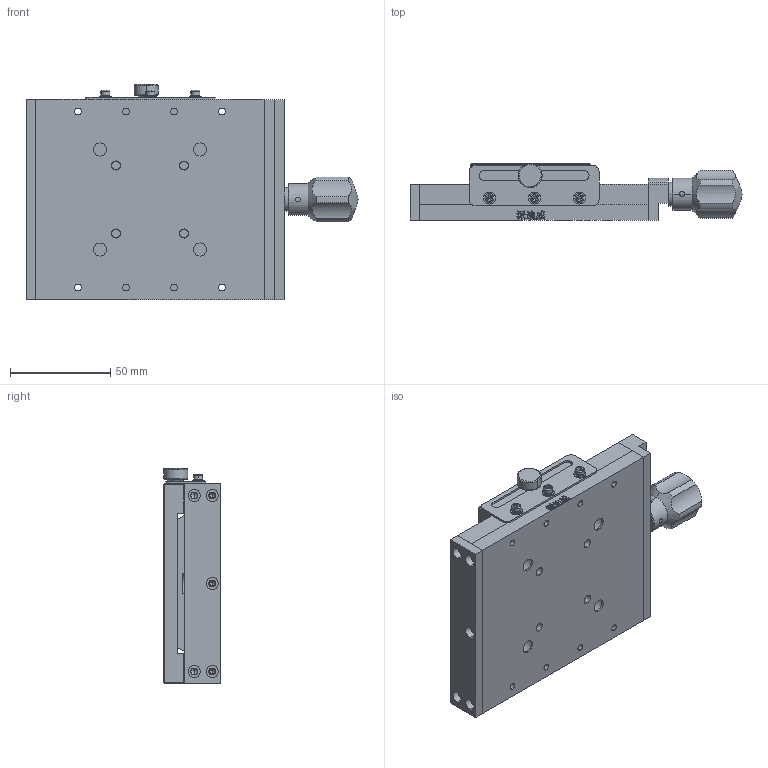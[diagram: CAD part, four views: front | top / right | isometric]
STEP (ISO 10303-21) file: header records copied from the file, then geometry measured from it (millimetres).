
FILE_DESCRIPTION (( 'STEP AP214' ), '1' );
FILE_NAME ('PT-SD102（50）.STEP', '2022-08-27T01:39:30', ( '' ), ( '' ), 'SwSTEP 2.0', 'SolidWorks 2017', '' );
FILE_SCHEMA (( 'AUTOMOTIVE_DESIGN' ));
Length unit declared in the file: millimetre
Products named in the file (1): PT-SD102ㄗ50ㄘ
Bounding box: 166 x 28.2 x 107.5 mm (x, y, z)
Surface area: 95229.8 mm2 (no closed solid volume)
Topology: 0 solids, 23 shells, 977 faces, 2634 edges, 1710 vertices
Faces by surface type: cylinder 475, plane 299, cone 106, bspline 97
Entity records: 66165 total; most frequent: CARTESIAN_POINT 42955, ORIENTED_EDGE 4746, DIRECTION 4411, EDGE_CURVE 2556, VERTEX_POINT 1710, AXIS2_PLACEMENT_3D 1602, VECTOR 1207, LINE 1207
